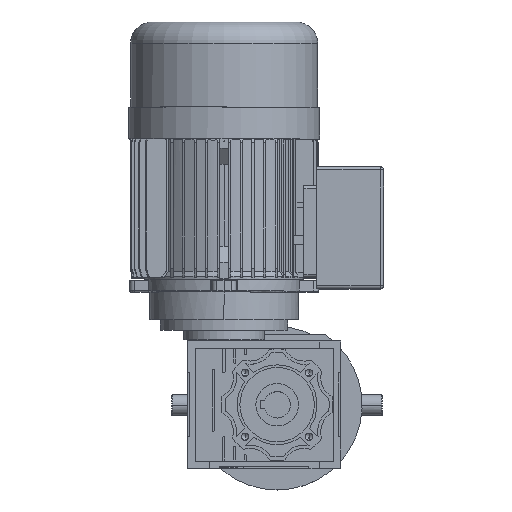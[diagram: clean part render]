
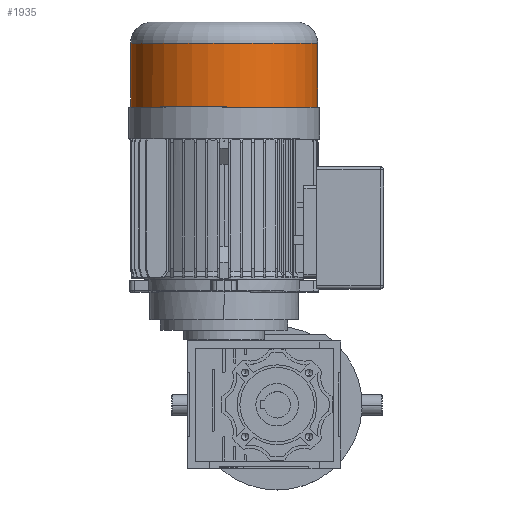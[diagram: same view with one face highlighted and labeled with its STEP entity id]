
A CAD part, top view. The second image highlights one B-rep face of the part: STEP entity #1935.
In plain terms, the highlighted cylindrical face has radius 88 mm (diameter 176 mm), a partial arc.
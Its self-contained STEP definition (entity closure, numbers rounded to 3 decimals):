
#40 = ORIENTED_EDGE ( 'NONE', *, *, #53255, .T. ) ;
#703 = AXIS2_PLACEMENT_3D ( 'NONE', #55660, #29060, #2486 ) ;
#1935 = ADVANCED_FACE ( 'NONE', ( #54996 ), #27151, .T. ) ;
#2486 = DIRECTION ( 'NONE',  ( 0., 1., 0. ) ) ;
#3162 = DIRECTION ( 'NONE',  ( 0., 0., 1. ) ) ;
#3773 = AXIS2_PLACEMENT_3D ( 'NONE', #43334, #56555, #16747 ) ;
#5826 = LINE ( 'NONE', #7256, #17657 ) ;
#6502 = VERTEX_POINT ( 'NONE', #34861 ) ;
#7256 = CARTESIAN_POINT ( 'NONE',  ( 0., -88., -330. ) ) ;
#10862 = VERTEX_POINT ( 'NONE', #32401 ) ;
#12287 = EDGE_CURVE ( 'NONE', #10862, #17559, #45476, .T. ) ;
#12953 = CARTESIAN_POINT ( 'NONE',  ( 0., 0., -310. ) ) ;
#16747 = DIRECTION ( 'NONE',  ( 0., -1., 0. ) ) ;
#17394 = DIRECTION ( 'NONE',  ( 0., 1., 0. ) ) ;
#17559 = VERTEX_POINT ( 'NONE', #50418 ) ;
#17657 = VECTOR ( 'NONE', #33819, 1000. ) ;
#17951 = AXIS2_PLACEMENT_3D ( 'NONE', #12953, #43945, #17394 ) ;
#20473 = ORIENTED_EDGE ( 'NONE', *, *, #33166, .T. ) ;
#20611 = ORIENTED_EDGE ( 'NONE', *, *, #52285, .T. ) ;
#24673 = CARTESIAN_POINT ( 'NONE',  ( 0., 88., -330. ) ) ;
#27151 = CYLINDRICAL_SURFACE ( 'NONE', #3773, 88. ) ;
#29060 = DIRECTION ( 'NONE',  ( 0., 0., -1. ) ) ;
#31936 = CARTESIAN_POINT ( 'NONE',  ( 0., -88., -250. ) ) ;
#32401 = CARTESIAN_POINT ( 'NONE',  ( 0., 88., -310. ) ) ;
#33166 = EDGE_CURVE ( 'NONE', #51578, #17559, #53526, .T. ) ;
#33819 = DIRECTION ( 'NONE',  ( 0., 0., 1. ) ) ;
#34861 = CARTESIAN_POINT ( 'NONE',  ( 0., -88., -310. ) ) ;
#36941 = CIRCLE ( 'NONE', #17951, 88. ) ;
#37067 = EDGE_LOOP ( 'NONE', ( #44218, #40, #20611, #20473 ) ) ;
#43334 = CARTESIAN_POINT ( 'NONE',  ( 0., 0., -330. ) ) ;
#43945 = DIRECTION ( 'NONE',  ( 0., 0., 1. ) ) ;
#44218 = ORIENTED_EDGE ( 'NONE', *, *, #12287, .F. ) ;
#45476 = LINE ( 'NONE', #24673, #57335 ) ;
#50418 = CARTESIAN_POINT ( 'NONE',  ( 0., 88., -250. ) ) ;
#51578 = VERTEX_POINT ( 'NONE', #31936 ) ;
#52285 = EDGE_CURVE ( 'NONE', #6502, #51578, #5826, .T. ) ;
#53255 = EDGE_CURVE ( 'NONE', #10862, #6502, #36941, .T. ) ;
#53526 = CIRCLE ( 'NONE', #703, 88. ) ;
#54996 = FACE_OUTER_BOUND ( 'NONE', #37067, .T. ) ;
#55660 = CARTESIAN_POINT ( 'NONE',  ( 0., 0., -250. ) ) ;
#56555 = DIRECTION ( 'NONE',  ( 0., 0., 1. ) ) ;
#57335 = VECTOR ( 'NONE', #3162, 1000. ) ;
